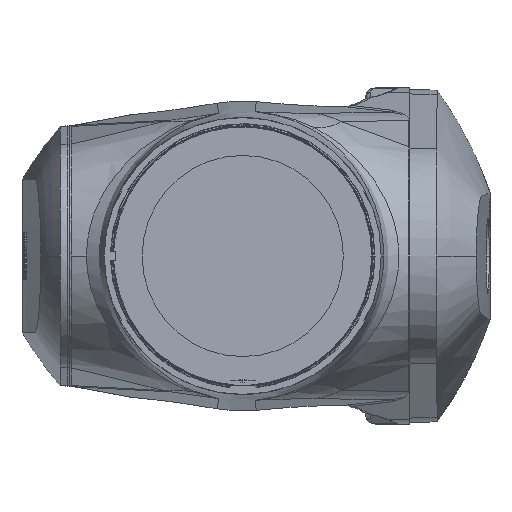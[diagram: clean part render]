
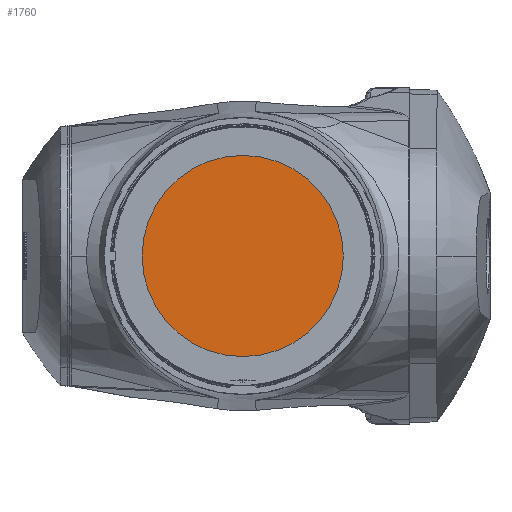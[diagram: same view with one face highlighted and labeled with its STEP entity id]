
A CAD part, left-side view. The second image highlights one B-rep face of the part: STEP entity #1760.
In plain terms, the highlighted planar face has unit normal (-1, 0, 0).
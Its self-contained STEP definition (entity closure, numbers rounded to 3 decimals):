
#17 = DIRECTION ( 'NONE',  ( -1., 0., 0. ) ) ;
#1760 = ADVANCED_FACE ( 'NONE', ( #27967 ), #11014, .T. ) ;
#2597 = ORIENTED_EDGE ( 'NONE', *, *, #6529, .T. ) ;
#3132 = CIRCLE ( 'NONE', #23388, 85. ) ;
#6171 = CARTESIAN_POINT ( 'NONE',  ( 197., 0., 2205. ) ) ;
#6529 = EDGE_CURVE ( 'NONE', #14917, #20106, #3132, .T. ) ;
#7605 = DIRECTION ( 'NONE',  ( -1., 0., 0. ) ) ;
#10380 = CIRCLE ( 'NONE', #11093, 85. ) ;
#10410 = ORIENTED_EDGE ( 'NONE', *, *, #21984, .T. ) ;
#11014 = PLANE ( 'NONE',  #29699 ) ;
#11093 = AXIS2_PLACEMENT_3D ( 'NONE', #6171, #34706, #27662 ) ;
#12789 = CARTESIAN_POINT ( 'NONE',  ( 197., 85., 2205. ) ) ;
#14917 = VERTEX_POINT ( 'NONE', #16881 ) ;
#16881 = CARTESIAN_POINT ( 'NONE',  ( 197., -85., 2205. ) ) ;
#20106 = VERTEX_POINT ( 'NONE', #12789 ) ;
#21327 = DIRECTION ( 'NONE',  ( 0., -1., 0. ) ) ;
#21434 = DIRECTION ( 'NONE',  ( 0., -1., 0. ) ) ;
#21984 = EDGE_CURVE ( 'NONE', #20106, #14917, #10380, .T. ) ;
#23388 = AXIS2_PLACEMENT_3D ( 'NONE', #42200, #17, #21327 ) ;
#27662 = DIRECTION ( 'NONE',  ( 0., -1., 0. ) ) ;
#27967 = FACE_OUTER_BOUND ( 'NONE', #37325, .T. ) ;
#29699 = AXIS2_PLACEMENT_3D ( 'NONE', #32050, #7605, #21434 ) ;
#32050 = CARTESIAN_POINT ( 'NONE',  ( 197., 0., 2205. ) ) ;
#34706 = DIRECTION ( 'NONE',  ( -1., 0., 0. ) ) ;
#37325 = EDGE_LOOP ( 'NONE', ( #10410, #2597 ) ) ;
#42200 = CARTESIAN_POINT ( 'NONE',  ( 197., 0., 2205. ) ) ;
